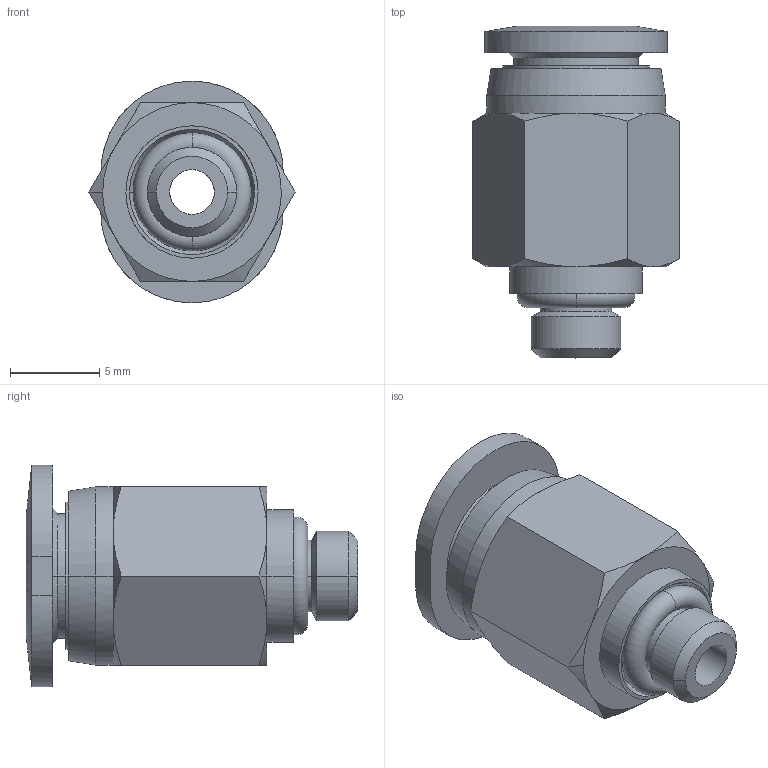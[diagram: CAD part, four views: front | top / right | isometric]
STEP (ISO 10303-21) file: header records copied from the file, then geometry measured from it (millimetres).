
FILE_DESCRIPTION (( 'STEP AP203' ), '1' );
FILE_NAME ('FMH06-M5.STEP', '2020-07-07T10:51:24', ( '' ), ( '' ), 'SwSTEP 2.0', 'SolidWorks 2019', '' );
FILE_SCHEMA (( 'CONFIG_CONTROL_DESIGN' ));
Length unit declared in the file: millimetre
Products named in the file (1): FMH06-M5
Bounding box: 11.55 x 18.58 x 12.39 mm (x, y, z)
Surface area: 1180.9 mm2 (no closed solid volume)
Topology: 0 solids, 4 shells, 72 faces, 161 edges, 99 vertices
Faces by surface type: cone 24, cylinder 20, plane 18, torus 6, bspline 4
Entity records: 3364 total; most frequent: CARTESIAN_POINT 1960, ORIENTED_EDGE 306, DIRECTION 180, EDGE_CURVE 161, B_SPLINE_CURVE_WITH_KNOTS 125, VERTEX_POINT 99, EDGE_LOOP 82, AXIS2_PLACEMENT_3D 75
